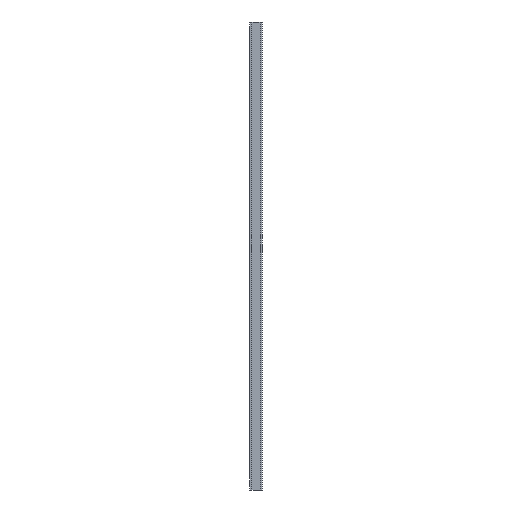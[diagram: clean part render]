
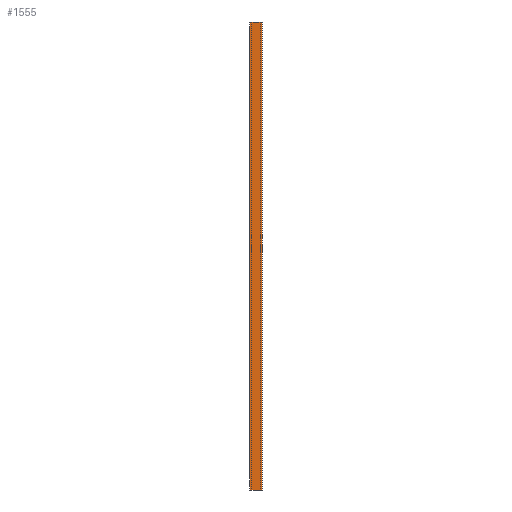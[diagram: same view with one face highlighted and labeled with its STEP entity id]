
A CAD part, left-side view. The second image highlights one B-rep face of the part: STEP entity #1555.
In plain terms, the highlighted planar face has unit normal (-1, 0, 0).
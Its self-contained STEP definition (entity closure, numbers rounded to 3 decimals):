
#7 = CARTESIAN_POINT ( 'NONE',  ( -8., 12.5, 479. ) ) ;
#8 = VECTOR ( 'NONE', #45, 1000. ) ;
#9 = EDGE_CURVE ( 'NONE', #299, #272, #685, .T. ) ;
#45 = DIRECTION ( 'NONE',  ( 0., 1., 0. ) ) ;
#143 = LINE ( 'NONE', #1597, #2556 ) ;
#177 = LINE ( 'NONE', #1022, #2148 ) ;
#198 = DIRECTION ( 'NONE',  ( 0., 0., 1. ) ) ;
#218 = FACE_OUTER_BOUND ( 'NONE', #1399, .T. ) ;
#219 = LINE ( 'NONE', #429, #8 ) ;
#272 = VERTEX_POINT ( 'NONE', #1060 ) ;
#299 = VERTEX_POINT ( 'NONE', #2607 ) ;
#302 = DIRECTION ( 'NONE',  ( 0., -1., 0. ) ) ;
#328 = VERTEX_POINT ( 'NONE', #1267 ) ;
#429 = CARTESIAN_POINT ( 'NONE',  ( -8., 0., 0. ) ) ;
#451 = LINE ( 'NONE', #7, #2115 ) ;
#589 = CARTESIAN_POINT ( 'NONE',  ( -8., 12.5, 0. ) ) ;
#662 = CARTESIAN_POINT ( 'NONE',  ( -8., 3.2, 0. ) ) ;
#677 = LINE ( 'NONE', #1089, #2196 ) ;
#685 = LINE ( 'NONE', #1961, #1028 ) ;
#757 = VECTOR ( 'NONE', #1954, 1000. ) ;
#822 = EDGE_CURVE ( 'NONE', #1566, #2613, #177, .T. ) ;
#854 = DIRECTION ( 'NONE',  ( 0., 1., 0. ) ) ;
#885 = ORIENTED_EDGE ( 'NONE', *, *, #1806, .T. ) ;
#916 = CARTESIAN_POINT ( 'NONE',  ( -8., 0., 0. ) ) ;
#1022 = CARTESIAN_POINT ( 'NONE',  ( -8., 12.5, 479. ) ) ;
#1028 = VECTOR ( 'NONE', #1374, 1000. ) ;
#1060 = CARTESIAN_POINT ( 'NONE',  ( -8., 0., 479. ) ) ;
#1089 = CARTESIAN_POINT ( 'NONE',  ( -8., 0., 479. ) ) ;
#1185 = EDGE_CURVE ( 'NONE', #272, #328, #1923, .T. ) ;
#1220 = EDGE_CURVE ( 'NONE', #299, #1586, #677, .T. ) ;
#1267 = CARTESIAN_POINT ( 'NONE',  ( -8., 0., 0. ) ) ;
#1291 = ORIENTED_EDGE ( 'NONE', *, *, #1220, .T. ) ;
#1302 = ORIENTED_EDGE ( 'NONE', *, *, #9, .F. ) ;
#1307 = VERTEX_POINT ( 'NONE', #1320 ) ;
#1315 = DIRECTION ( 'NONE',  ( -1., 0., 0. ) ) ;
#1320 = CARTESIAN_POINT ( 'NONE',  ( -8., 9.3, 0. ) ) ;
#1374 = DIRECTION ( 'NONE',  ( 0., -1., 0. ) ) ;
#1399 = EDGE_LOOP ( 'NONE', ( #1415, #1607, #1864, #1302, #1291, #885, #2208, #2471 ) ) ;
#1415 = ORIENTED_EDGE ( 'NONE', *, *, #2005, .F. ) ;
#1555 = ADVANCED_FACE ( 'NONE', ( #218 ), #1718, .T. ) ;
#1566 = VERTEX_POINT ( 'NONE', #1970 ) ;
#1586 = VERTEX_POINT ( 'NONE', #2028 ) ;
#1597 = CARTESIAN_POINT ( 'NONE',  ( -8., 0., 0. ) ) ;
#1607 = ORIENTED_EDGE ( 'NONE', *, *, #2100, .T. ) ;
#1628 = VECTOR ( 'NONE', #302, 1000. ) ;
#1690 = CARTESIAN_POINT ( 'NONE',  ( -8., 0., 479. ) ) ;
#1718 = PLANE ( 'NONE',  #1895 ) ;
#1806 = EDGE_CURVE ( 'NONE', #1586, #1566, #451, .T. ) ;
#1864 = ORIENTED_EDGE ( 'NONE', *, *, #1185, .F. ) ;
#1883 = DIRECTION ( 'NONE',  ( 0., 0., -1. ) ) ;
#1895 = AXIS2_PLACEMENT_3D ( 'NONE', #2591, #1315, #198 ) ;
#1923 = LINE ( 'NONE', #1690, #757 ) ;
#1954 = DIRECTION ( 'NONE',  ( 0., 0., -1. ) ) ;
#1961 = CARTESIAN_POINT ( 'NONE',  ( -8., 0., 479. ) ) ;
#1970 = CARTESIAN_POINT ( 'NONE',  ( -8., 12.5, 479. ) ) ;
#2005 = EDGE_CURVE ( 'NONE', #2250, #1307, #219, .T. ) ;
#2013 = DIRECTION ( 'NONE',  ( 0., 1., 0. ) ) ;
#2028 = CARTESIAN_POINT ( 'NONE',  ( -8., 9.3, 479. ) ) ;
#2100 = EDGE_CURVE ( 'NONE', #2250, #328, #2418, .T. ) ;
#2113 = DIRECTION ( 'NONE',  ( 0., 1., 0. ) ) ;
#2115 = VECTOR ( 'NONE', #854, 1000. ) ;
#2148 = VECTOR ( 'NONE', #1883, 1000. ) ;
#2196 = VECTOR ( 'NONE', #2113, 1000. ) ;
#2208 = ORIENTED_EDGE ( 'NONE', *, *, #822, .T. ) ;
#2250 = VERTEX_POINT ( 'NONE', #662 ) ;
#2418 = LINE ( 'NONE', #916, #1628 ) ;
#2471 = ORIENTED_EDGE ( 'NONE', *, *, #2739, .F. ) ;
#2556 = VECTOR ( 'NONE', #2013, 1000. ) ;
#2591 = CARTESIAN_POINT ( 'NONE',  ( -8., 0., 479. ) ) ;
#2607 = CARTESIAN_POINT ( 'NONE',  ( -8., 3.2, 479. ) ) ;
#2613 = VERTEX_POINT ( 'NONE', #589 ) ;
#2739 = EDGE_CURVE ( 'NONE', #1307, #2613, #143, .T. ) ;
